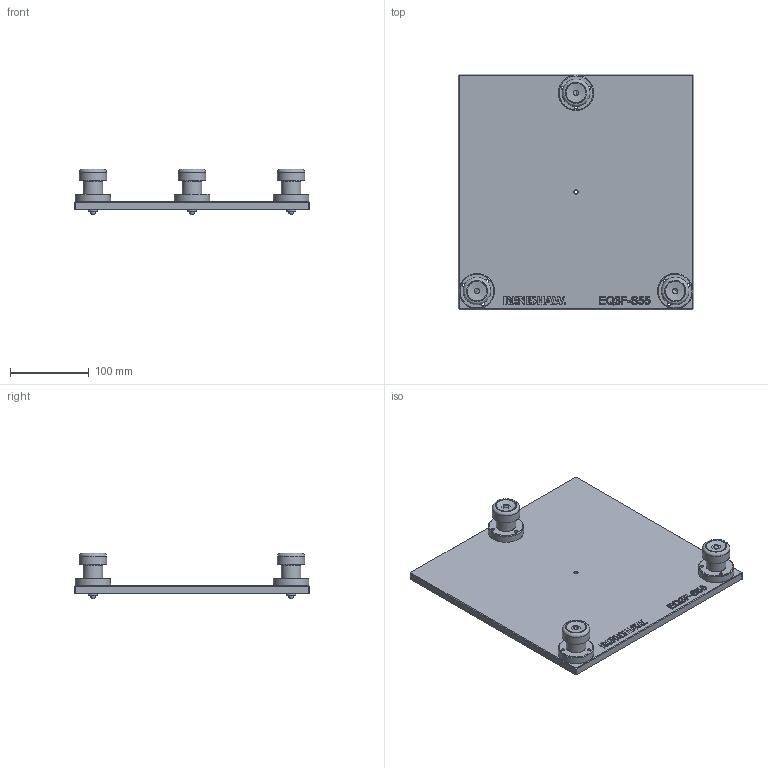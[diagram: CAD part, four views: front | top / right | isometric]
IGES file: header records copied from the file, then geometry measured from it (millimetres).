
Global section: file name: C:\Users\cj134800\Desktop\Fixture Plate Spacer 55mm\A-5504-0203-02_B.igs; native system: NX V10.0; preprocessor: SIEMENS PLM Software NX 10.0; date: 20171213.105352; units: millimetre
Bounding box: 300 x 300 x 58.1 mm (x, y, z)
Surface area: 231495.3 mm2 (no closed solid volume)
Topology: 0 solids, 0 shells, 618 faces, 4433 edges, 4262 vertices
Faces by surface type: bspline 618
